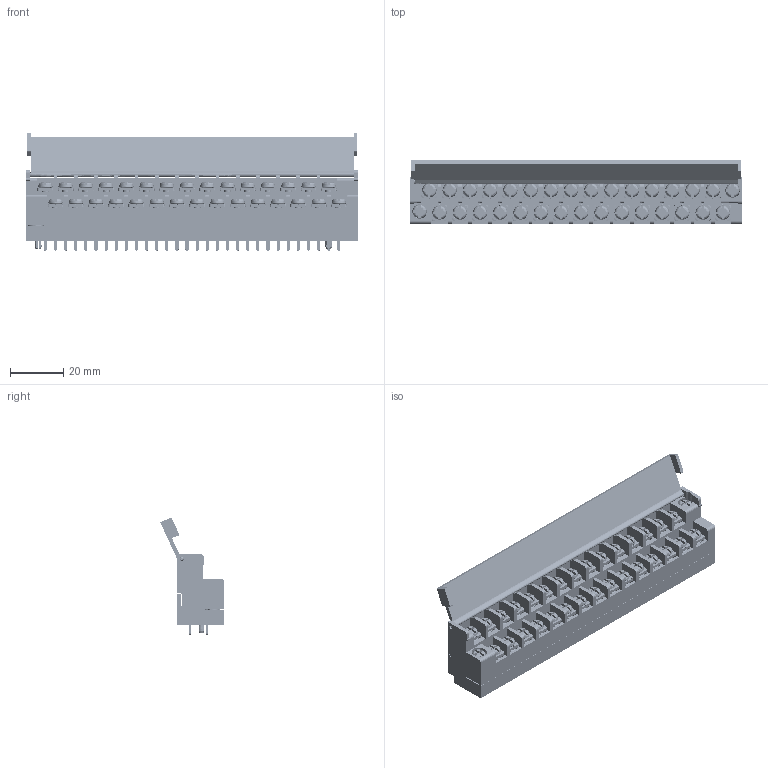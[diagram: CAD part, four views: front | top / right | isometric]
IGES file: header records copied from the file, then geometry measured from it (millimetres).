
Start section: ZWSOFT
Global section: file name: BH762-07-15G-S0-S01.igs; native system: ZW3D; preprocessor: 1.0; author: ZW3D; organization: ZWSOFT; date: 231117.101833; units: millimetre
Bounding box: 125 x 23.91 x 44.22 mm (x, y, z)
Surface area: 49036.3 mm2 (no closed solid volume)
Topology: 0 solids, 0 shells, 6863 faces, 38286 edges, 38222 vertices
Faces by surface type: bspline 6863
